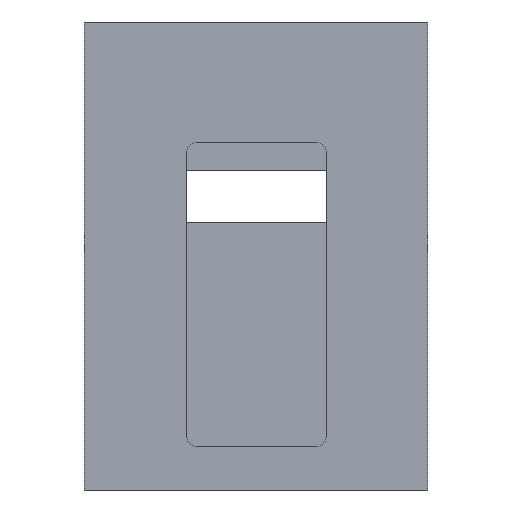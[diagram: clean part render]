
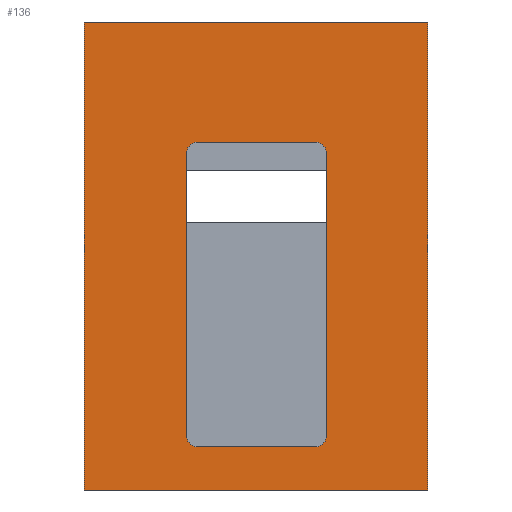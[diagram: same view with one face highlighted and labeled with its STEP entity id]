
A CAD part, front view. The second image highlights one B-rep face of the part: STEP entity #136.
In plain terms, the highlighted planar face has unit normal (0, -1, 0).
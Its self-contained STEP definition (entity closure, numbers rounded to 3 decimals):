
#14 = EDGE_LOOP ( 'NONE', ( #1496, #416, #467, #860, #1674, #1191, #869, #121 ) ) ;
#15 = CARTESIAN_POINT ( 'NONE',  ( -69.485, 0., -88.422 ) ) ;
#17 = CARTESIAN_POINT ( 'NONE',  ( -69.485, 0., 100.642 ) ) ;
#27 = EDGE_LOOP ( 'NONE', ( #530, #480, #1301, #286 ) ) ;
#33 = AXIS2_PLACEMENT_3D ( 'NONE', #165, #1484, #1358 ) ;
#63 = VERTEX_POINT ( 'NONE', #17 ) ;
#92 = CARTESIAN_POINT ( 'NONE',  ( 23.59, 0., 52.15 ) ) ;
#102 = VERTEX_POINT ( 'NONE', #1616 ) ;
#113 = AXIS2_PLACEMENT_3D ( 'NONE', #209, #1021, #631 ) ;
#121 = ORIENTED_EDGE ( 'NONE', *, *, #409, .T. ) ;
#136 = ADVANCED_FACE ( 'NONE', ( #322, #1504 ), #584, .T. ) ;
#152 = CARTESIAN_POINT ( 'NONE',  ( -23.59, 0., -66.31 ) ) ;
#165 = CARTESIAN_POINT ( 'NONE',  ( 23.59, 0., -66.31 ) ) ;
#207 = VERTEX_POINT ( 'NONE', #1215 ) ;
#209 = CARTESIAN_POINT ( 'NONE',  ( -23.59, 0., 47.42 ) ) ;
#233 = CARTESIAN_POINT ( 'NONE',  ( -28.32, 0., -71.04 ) ) ;
#243 = CARTESIAN_POINT ( 'NONE',  ( 28.32, 0., -71.04 ) ) ;
#264 = EDGE_CURVE ( 'NONE', #1182, #1081, #748, .T. ) ;
#276 = VECTOR ( 'NONE', #1442, 1000. ) ;
#282 = CARTESIAN_POINT ( 'NONE',  ( -28.32, 0., 47.42 ) ) ;
#286 = ORIENTED_EDGE ( 'NONE', *, *, #482, .F. ) ;
#322 = FACE_BOUND ( 'NONE', #14, .T. ) ;
#375 = CARTESIAN_POINT ( 'NONE',  ( -28.32, 0., 52.15 ) ) ;
#406 = VERTEX_POINT ( 'NONE', #1298 ) ;
#409 = EDGE_CURVE ( 'NONE', #576, #406, #904, .T. ) ;
#414 = CARTESIAN_POINT ( 'NONE',  ( -69.485, 0., 100.642 ) ) ;
#416 = ORIENTED_EDGE ( 'NONE', *, *, #730, .T. ) ;
#430 = CARTESIAN_POINT ( 'NONE',  ( -23.59, 0., 52.15 ) ) ;
#440 = EDGE_CURVE ( 'NONE', #102, #63, #1570, .T. ) ;
#445 = CARTESIAN_POINT ( 'NONE',  ( 0., 0., 0. ) ) ;
#467 = ORIENTED_EDGE ( 'NONE', *, *, #264, .F. ) ;
#476 = CARTESIAN_POINT ( 'NONE',  ( 23.59, 0., 47.42 ) ) ;
#480 = ORIENTED_EDGE ( 'NONE', *, *, #440, .F. ) ;
#482 = EDGE_CURVE ( 'NONE', #1139, #509, #1049, .T. ) ;
#509 = VERTEX_POINT ( 'NONE', #1682 ) ;
#512 = VERTEX_POINT ( 'NONE', #282 ) ;
#525 = CARTESIAN_POINT ( 'NONE',  ( -28.32, 0., -71.04 ) ) ;
#530 = ORIENTED_EDGE ( 'NONE', *, *, #962, .F. ) ;
#549 = AXIS2_PLACEMENT_3D ( 'NONE', #445, #1102, #723 ) ;
#551 = CIRCLE ( 'NONE', #1495, 4.73 ) ;
#559 = CARTESIAN_POINT ( 'NONE',  ( 23.59, 0., -71.04 ) ) ;
#576 = VERTEX_POINT ( 'NONE', #1090 ) ;
#584 = PLANE ( 'NONE',  #549 ) ;
#631 = DIRECTION ( 'NONE',  ( 0., 0., -1. ) ) ;
#723 = DIRECTION ( 'NONE',  ( 0., 0., -1. ) ) ;
#730 = EDGE_CURVE ( 'NONE', #512, #1081, #1440, .T. ) ;
#742 = DIRECTION ( 'NONE',  ( 0., 0., -1. ) ) ;
#748 = LINE ( 'NONE', #375, #851 ) ;
#775 = DIRECTION ( 'NONE',  ( 0., 0., 1. ) ) ;
#784 = EDGE_CURVE ( 'NONE', #1182, #1018, #551, .T. ) ;
#851 = VECTOR ( 'NONE', #1511, 1000. ) ;
#856 = CIRCLE ( 'NONE', #33, 4.73 ) ;
#859 = CARTESIAN_POINT ( 'NONE',  ( -69.485, 0., -88.422 ) ) ;
#860 = ORIENTED_EDGE ( 'NONE', *, *, #784, .T. ) ;
#869 = ORIENTED_EDGE ( 'NONE', *, *, #970, .F. ) ;
#904 = CIRCLE ( 'NONE', #1438, 4.73 ) ;
#938 = DIRECTION ( 'NONE',  ( 1., 0., 0. ) ) ;
#940 = DIRECTION ( 'NONE',  ( 0., 0., 1. ) ) ;
#962 = EDGE_CURVE ( 'NONE', #63, #1139, #1577, .T. ) ;
#970 = EDGE_CURVE ( 'NONE', #576, #1224, #1167, .T. ) ;
#1010 = VECTOR ( 'NONE', #940, 1000. ) ;
#1018 = VERTEX_POINT ( 'NONE', #1201 ) ;
#1021 = DIRECTION ( 'NONE',  ( 0., 1., 0. ) ) ;
#1034 = EDGE_CURVE ( 'NONE', #207, #1224, #856, .T. ) ;
#1040 = VECTOR ( 'NONE', #1303, 1000. ) ;
#1042 = VECTOR ( 'NONE', #742, 1000. ) ;
#1049 = LINE ( 'NONE', #1189, #276 ) ;
#1081 = VERTEX_POINT ( 'NONE', #430 ) ;
#1090 = CARTESIAN_POINT ( 'NONE',  ( -23.59, 0., -71.04 ) ) ;
#1102 = DIRECTION ( 'NONE',  ( 0., -1., 0. ) ) ;
#1139 = VERTEX_POINT ( 'NONE', #1252 ) ;
#1167 = LINE ( 'NONE', #525, #1209 ) ;
#1174 = EDGE_CURVE ( 'NONE', #512, #406, #1638, .T. ) ;
#1182 = VERTEX_POINT ( 'NONE', #92 ) ;
#1189 = CARTESIAN_POINT ( 'NONE',  ( 69.105, 0., -88.422 ) ) ;
#1191 = ORIENTED_EDGE ( 'NONE', *, *, #1034, .T. ) ;
#1201 = CARTESIAN_POINT ( 'NONE',  ( 28.32, 0., 47.42 ) ) ;
#1209 = VECTOR ( 'NONE', #938, 1000. ) ;
#1215 = CARTESIAN_POINT ( 'NONE',  ( 28.32, 0., -66.31 ) ) ;
#1224 = VERTEX_POINT ( 'NONE', #559 ) ;
#1249 = DIRECTION ( 'NONE',  ( -1., 0., 0. ) ) ;
#1252 = CARTESIAN_POINT ( 'NONE',  ( 69.105, 0., 100.642 ) ) ;
#1256 = LINE ( 'NONE', #859, #1585 ) ;
#1298 = CARTESIAN_POINT ( 'NONE',  ( -28.32, 0., -66.31 ) ) ;
#1301 = ORIENTED_EDGE ( 'NONE', *, *, #1481, .F. ) ;
#1303 = DIRECTION ( 'NONE',  ( 1., 0., 0. ) ) ;
#1314 = DIRECTION ( 'NONE',  ( 0., 1., 0. ) ) ;
#1358 = DIRECTION ( 'NONE',  ( 0., 0., -1. ) ) ;
#1410 = LINE ( 'NONE', #243, #1557 ) ;
#1438 = AXIS2_PLACEMENT_3D ( 'NONE', #152, #1314, #1563 ) ;
#1440 = CIRCLE ( 'NONE', #113, 4.73 ) ;
#1442 = DIRECTION ( 'NONE',  ( 0., 0., -1. ) ) ;
#1481 = EDGE_CURVE ( 'NONE', #509, #102, #1256, .T. ) ;
#1484 = DIRECTION ( 'NONE',  ( 0., 1., 0. ) ) ;
#1495 = AXIS2_PLACEMENT_3D ( 'NONE', #476, #1629, #1510 ) ;
#1496 = ORIENTED_EDGE ( 'NONE', *, *, #1174, .F. ) ;
#1504 = FACE_OUTER_BOUND ( 'NONE', #27, .T. ) ;
#1510 = DIRECTION ( 'NONE',  ( 0., 0., -1. ) ) ;
#1511 = DIRECTION ( 'NONE',  ( -1., 0., 0. ) ) ;
#1557 = VECTOR ( 'NONE', #775, 1000. ) ;
#1563 = DIRECTION ( 'NONE',  ( 0., 0., -1. ) ) ;
#1570 = LINE ( 'NONE', #15, #1010 ) ;
#1577 = LINE ( 'NONE', #414, #1040 ) ;
#1585 = VECTOR ( 'NONE', #1249, 1000. ) ;
#1616 = CARTESIAN_POINT ( 'NONE',  ( -69.485, 0., -88.422 ) ) ;
#1629 = DIRECTION ( 'NONE',  ( 0., 1., 0. ) ) ;
#1638 = LINE ( 'NONE', #233, #1042 ) ;
#1654 = EDGE_CURVE ( 'NONE', #207, #1018, #1410, .T. ) ;
#1674 = ORIENTED_EDGE ( 'NONE', *, *, #1654, .F. ) ;
#1682 = CARTESIAN_POINT ( 'NONE',  ( 69.105, 0., -88.422 ) ) ;
